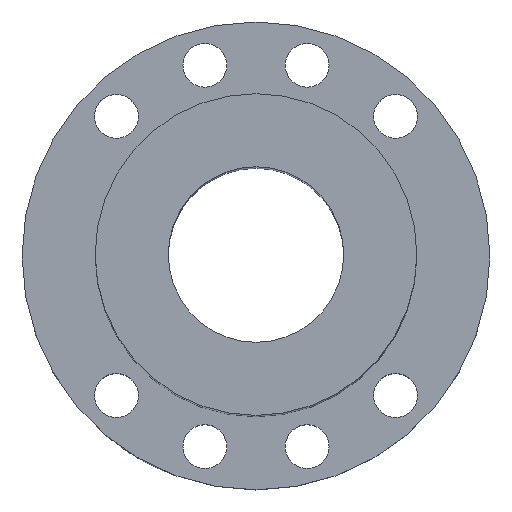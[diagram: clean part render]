
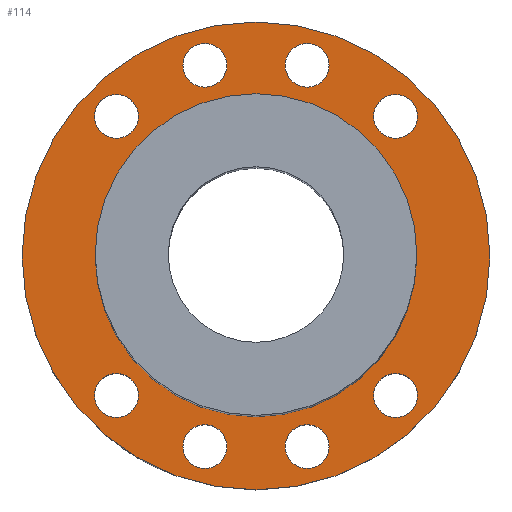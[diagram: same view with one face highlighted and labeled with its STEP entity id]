
A CAD part, top view. The second image highlights one B-rep face of the part: STEP entity #114.
In plain terms, the highlighted planar face has unit normal (0, 0, 1).
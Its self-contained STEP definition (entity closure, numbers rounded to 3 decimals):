
#99=PLANE('',#401);
#114=ADVANCED_FACE('',(#169,#170,#171,#172,#173,#174,#175,#176,#177,#178),
#99,.T.);
#169=FACE_BOUND('',#221,.T.);
#170=FACE_BOUND('',#222,.T.);
#171=FACE_BOUND('',#223,.T.);
#172=FACE_BOUND('',#224,.T.);
#173=FACE_BOUND('',#225,.T.);
#174=FACE_BOUND('',#226,.T.);
#175=FACE_BOUND('',#227,.T.);
#176=FACE_BOUND('',#228,.T.);
#177=FACE_BOUND('',#229,.T.);
#178=FACE_BOUND('',#230,.T.);
#221=EDGE_LOOP('',(#273));
#222=EDGE_LOOP('',(#274));
#223=EDGE_LOOP('',(#275));
#224=EDGE_LOOP('',(#276));
#225=EDGE_LOOP('',(#277));
#226=EDGE_LOOP('',(#278));
#227=EDGE_LOOP('',(#279));
#228=EDGE_LOOP('',(#280));
#229=EDGE_LOOP('',(#281));
#230=EDGE_LOOP('',(#282));
#273=ORIENTED_EDGE('',*,*,#316,.T.);
#274=ORIENTED_EDGE('',*,*,#337,.F.);
#275=ORIENTED_EDGE('',*,*,#336,.T.);
#276=ORIENTED_EDGE('',*,*,#335,.F.);
#277=ORIENTED_EDGE('',*,*,#318,.T.);
#278=ORIENTED_EDGE('',*,*,#334,.T.);
#279=ORIENTED_EDGE('',*,*,#333,.T.);
#280=ORIENTED_EDGE('',*,*,#332,.F.);
#281=ORIENTED_EDGE('',*,*,#331,.F.);
#282=ORIENTED_EDGE('',*,*,#338,.T.);
#290=VERTEX_POINT('',#495);
#292=VERTEX_POINT('',#557);
#305=VERTEX_POINT('',#644);
#306=VERTEX_POINT('',#647);
#307=VERTEX_POINT('',#650);
#308=VERTEX_POINT('',#653);
#309=VERTEX_POINT('',#656);
#310=VERTEX_POINT('',#659);
#311=VERTEX_POINT('',#662);
#312=VERTEX_POINT('',#665);
#316=EDGE_CURVE('',#290,#290,#342,.T.);
#318=EDGE_CURVE('',#292,#292,#343,.T.);
#331=EDGE_CURVE('',#305,#305,#355,.T.);
#332=EDGE_CURVE('',#306,#306,#356,.T.);
#333=EDGE_CURVE('',#307,#307,#357,.T.);
#334=EDGE_CURVE('',#308,#308,#358,.T.);
#335=EDGE_CURVE('',#309,#309,#359,.T.);
#336=EDGE_CURVE('',#310,#310,#360,.T.);
#337=EDGE_CURVE('',#311,#311,#361,.T.);
#338=EDGE_CURVE('',#312,#312,#362,.T.);
#342=CIRCLE('',#367,48.);
#343=CIRCLE('',#369,33.);
#355=CIRCLE('',#385,4.5);
#356=CIRCLE('',#387,4.5);
#357=CIRCLE('',#389,4.5);
#358=CIRCLE('',#391,4.5);
#359=CIRCLE('',#393,4.5);
#360=CIRCLE('',#395,4.5);
#361=CIRCLE('',#397,4.5);
#362=CIRCLE('',#399,4.5);
#367=AXIS2_PLACEMENT_3D('',#494,#411,#412);
#369=AXIS2_PLACEMENT_3D('',#556,#415,#416);
#385=AXIS2_PLACEMENT_3D('',#643,#447,#448);
#387=AXIS2_PLACEMENT_3D('',#646,#451,#452);
#389=AXIS2_PLACEMENT_3D('',#649,#455,#456);
#391=AXIS2_PLACEMENT_3D('',#652,#459,#460);
#393=AXIS2_PLACEMENT_3D('',#655,#463,#464);
#395=AXIS2_PLACEMENT_3D('',#658,#467,#468);
#397=AXIS2_PLACEMENT_3D('',#661,#471,#472);
#399=AXIS2_PLACEMENT_3D('',#664,#475,#476);
#401=AXIS2_PLACEMENT_3D('',#667,#479,#480);
#411=DIRECTION('',(0.,0.,1.));
#412=DIRECTION('',(1.,0.,0.));
#415=DIRECTION('',(0.,0.,-1.));
#416=DIRECTION('',(1.,0.,0.));
#447=DIRECTION('',(0.,0.,1.));
#448=DIRECTION('',(1.,0.,0.));
#451=DIRECTION('',(0.,0.,1.));
#452=DIRECTION('',(-1.,0.,0.));
#455=DIRECTION('',(0.,0.,-1.));
#456=DIRECTION('',(1.,0.,0.));
#459=DIRECTION('',(0.,0.,-1.));
#460=DIRECTION('',(-1.,0.,0.));
#463=DIRECTION('',(0.,0.,1.));
#464=DIRECTION('',(1.,0.,0.));
#467=DIRECTION('',(0.,0.,-1.));
#468=DIRECTION('',(-1.,0.,0.));
#471=DIRECTION('',(0.,0.,1.));
#472=DIRECTION('',(-1.,0.,0.));
#475=DIRECTION('',(0.,0.,-1.));
#476=DIRECTION('',(1.,0.,0.));
#479=DIRECTION('',(0.,0.,1.));
#480=DIRECTION('',(1.,0.,0.));
#494=CARTESIAN_POINT('',(0.,0.,14.));
#495=CARTESIAN_POINT('',(48.,0.,14.));
#556=CARTESIAN_POINT('',(0.,0.,14.));
#557=CARTESIAN_POINT('',(33.,0.,14.));
#643=CARTESIAN_POINT('',(-10.482,39.12,14.));
#644=CARTESIAN_POINT('',(-5.982,39.12,14.));
#646=CARTESIAN_POINT('',(28.638,-28.638,14.));
#647=CARTESIAN_POINT('',(24.138,-28.638,14.));
#649=CARTESIAN_POINT('',(-10.482,-39.12,14.));
#650=CARTESIAN_POINT('',(-5.982,-39.12,14.));
#652=CARTESIAN_POINT('',(28.638,28.638,14.));
#653=CARTESIAN_POINT('',(24.138,28.638,14.));
#655=CARTESIAN_POINT('',(-28.638,28.638,14.));
#656=CARTESIAN_POINT('',(-24.138,28.638,14.));
#658=CARTESIAN_POINT('',(10.482,39.12,14.));
#659=CARTESIAN_POINT('',(5.982,39.12,14.));
#661=CARTESIAN_POINT('',(10.482,-39.12,14.));
#662=CARTESIAN_POINT('',(5.982,-39.12,14.));
#664=CARTESIAN_POINT('',(-28.638,-28.638,14.));
#665=CARTESIAN_POINT('',(-24.138,-28.638,14.));
#667=CARTESIAN_POINT('',(5.241,-19.56,14.));
